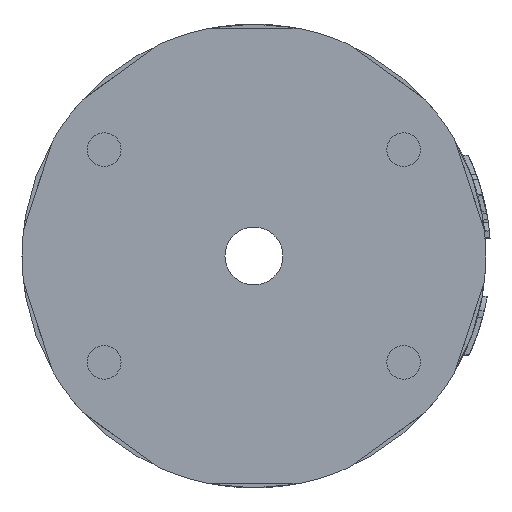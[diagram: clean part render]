
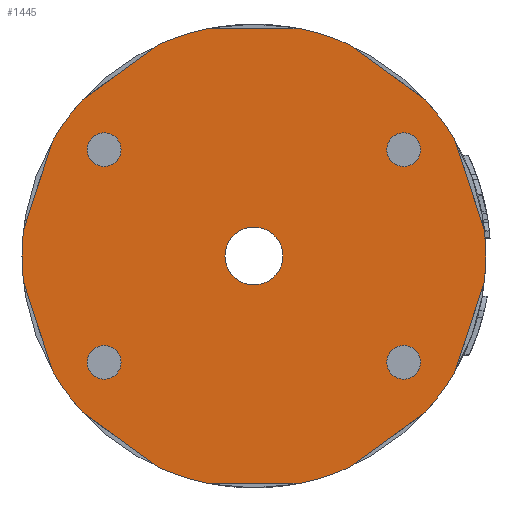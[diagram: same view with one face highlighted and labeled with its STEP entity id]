
A CAD part, front view. The second image highlights one B-rep face of the part: STEP entity #1445.
In plain terms, the highlighted planar face has unit normal (0, -1, 0).
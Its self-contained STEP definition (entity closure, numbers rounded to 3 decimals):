
#227=FACE_BOUND('',#2878,.T.);
#228=FACE_BOUND('',#2879,.T.);
#229=FACE_BOUND('',#2880,.T.);
#230=FACE_BOUND('',#2881,.T.);
#231=FACE_BOUND('',#2882,.T.);
#232=FACE_BOUND('',#2883,.T.);
#398=CIRCLE('',#8556,24.);
#399=CIRCLE('',#8557,24.);
#400=CIRCLE('',#8558,24.);
#401=CIRCLE('',#8559,24.);
#402=CIRCLE('',#8560,24.);
#403=CIRCLE('',#8561,24.);
#404=CIRCLE('',#8562,24.);
#405=CIRCLE('',#8563,24.);
#406=CIRCLE('',#8564,24.);
#407=CIRCLE('',#8565,24.);
#408=CIRCLE('',#8566,3.);
#409=CIRCLE('',#8567,3.);
#410=CIRCLE('',#8568,1.75);
#411=CIRCLE('',#8569,1.75);
#412=CIRCLE('',#8570,1.75);
#413=CIRCLE('',#8571,1.75);
#414=CIRCLE('',#8572,1.75);
#415=CIRCLE('',#8573,1.75);
#416=CIRCLE('',#8574,1.75);
#417=CIRCLE('',#8575,1.75);
#831=PLANE('',#8576);
#1046=LINE('',#32040,#1975);
#1047=LINE('',#32044,#1976);
#1048=LINE('',#32048,#1977);
#1049=LINE('',#32052,#1978);
#1050=LINE('',#32056,#1979);
#1051=LINE('',#32060,#1980);
#1052=LINE('',#32064,#1981);
#1053=LINE('',#32068,#1982);
#1054=LINE('',#32072,#1983);
#1055=LINE('',#32076,#1984);
#1445=ADVANCED_FACE('',(#227,#228,#229,#230,#231,#232),#831,.F.);
#1975=VECTOR('',#9775,1.);
#1976=VECTOR('',#9778,1.);
#1977=VECTOR('',#9781,1.);
#1978=VECTOR('',#9784,1.);
#1979=VECTOR('',#9787,1.);
#1980=VECTOR('',#9790,1.);
#1981=VECTOR('',#9793,1.);
#1982=VECTOR('',#9796,1.);
#1983=VECTOR('',#9799,1.);
#1984=VECTOR('',#9802,1.);
#2878=EDGE_LOOP('',(#4480,#4481,#4482,#4483,#4484,#4485,#4486,#4487,#4488,
#4489,#4490,#4491,#4492,#4493,#4494,#4495,#4496,#4497,#4498,#4499));
#2879=EDGE_LOOP('',(#4500,#4501));
#2880=EDGE_LOOP('',(#4502,#4503));
#2881=EDGE_LOOP('',(#4504,#4505));
#2882=EDGE_LOOP('',(#4506,#4507));
#2883=EDGE_LOOP('',(#4508,#4509));
#4480=ORIENTED_EDGE('',*,*,#7155,.T.);
#4481=ORIENTED_EDGE('',*,*,#7156,.F.);
#4482=ORIENTED_EDGE('',*,*,#7157,.T.);
#4483=ORIENTED_EDGE('',*,*,#7158,.F.);
#4484=ORIENTED_EDGE('',*,*,#7159,.T.);
#4485=ORIENTED_EDGE('',*,*,#7160,.F.);
#4486=ORIENTED_EDGE('',*,*,#7161,.T.);
#4487=ORIENTED_EDGE('',*,*,#7162,.F.);
#4488=ORIENTED_EDGE('',*,*,#7163,.T.);
#4489=ORIENTED_EDGE('',*,*,#7164,.F.);
#4490=ORIENTED_EDGE('',*,*,#7165,.T.);
#4491=ORIENTED_EDGE('',*,*,#7166,.F.);
#4492=ORIENTED_EDGE('',*,*,#7167,.T.);
#4493=ORIENTED_EDGE('',*,*,#7168,.F.);
#4494=ORIENTED_EDGE('',*,*,#7169,.T.);
#4495=ORIENTED_EDGE('',*,*,#7170,.F.);
#4496=ORIENTED_EDGE('',*,*,#7171,.T.);
#4497=ORIENTED_EDGE('',*,*,#7172,.F.);
#4498=ORIENTED_EDGE('',*,*,#7173,.T.);
#4499=ORIENTED_EDGE('',*,*,#7174,.F.);
#4500=ORIENTED_EDGE('',*,*,#7175,.F.);
#4501=ORIENTED_EDGE('',*,*,#7176,.F.);
#4502=ORIENTED_EDGE('',*,*,#7177,.F.);
#4503=ORIENTED_EDGE('',*,*,#7178,.F.);
#4504=ORIENTED_EDGE('',*,*,#7179,.T.);
#4505=ORIENTED_EDGE('',*,*,#7180,.T.);
#4506=ORIENTED_EDGE('',*,*,#7181,.F.);
#4507=ORIENTED_EDGE('',*,*,#7182,.F.);
#4508=ORIENTED_EDGE('',*,*,#7183,.T.);
#4509=ORIENTED_EDGE('',*,*,#7184,.T.);
#6105=VERTEX_POINT('',#32038);
#6106=VERTEX_POINT('',#32039);
#6107=VERTEX_POINT('',#32041);
#6108=VERTEX_POINT('',#32043);
#6109=VERTEX_POINT('',#32045);
#6110=VERTEX_POINT('',#32047);
#6111=VERTEX_POINT('',#32049);
#6112=VERTEX_POINT('',#32051);
#6113=VERTEX_POINT('',#32053);
#6114=VERTEX_POINT('',#32055);
#6115=VERTEX_POINT('',#32057);
#6116=VERTEX_POINT('',#32059);
#6117=VERTEX_POINT('',#32061);
#6118=VERTEX_POINT('',#32063);
#6119=VERTEX_POINT('',#32065);
#6120=VERTEX_POINT('',#32067);
#6121=VERTEX_POINT('',#32069);
#6122=VERTEX_POINT('',#32071);
#6123=VERTEX_POINT('',#32073);
#6124=VERTEX_POINT('',#32075);
#6125=VERTEX_POINT('',#32078);
#6126=VERTEX_POINT('',#32079);
#6127=VERTEX_POINT('',#32082);
#6128=VERTEX_POINT('',#32083);
#6129=VERTEX_POINT('',#32086);
#6130=VERTEX_POINT('',#32087);
#6131=VERTEX_POINT('',#32090);
#6132=VERTEX_POINT('',#32091);
#6133=VERTEX_POINT('',#32094);
#6134=VERTEX_POINT('',#32095);
#7155=EDGE_CURVE('',#6105,#6106,#398,.T.);
#7156=EDGE_CURVE('',#6107,#6106,#1046,.T.);
#7157=EDGE_CURVE('',#6107,#6108,#399,.T.);
#7158=EDGE_CURVE('',#6109,#6108,#1047,.T.);
#7159=EDGE_CURVE('',#6109,#6110,#400,.T.);
#7160=EDGE_CURVE('',#6111,#6110,#1048,.T.);
#7161=EDGE_CURVE('',#6111,#6112,#401,.T.);
#7162=EDGE_CURVE('',#6113,#6112,#1049,.T.);
#7163=EDGE_CURVE('',#6113,#6114,#402,.T.);
#7164=EDGE_CURVE('',#6115,#6114,#1050,.T.);
#7165=EDGE_CURVE('',#6115,#6116,#403,.T.);
#7166=EDGE_CURVE('',#6117,#6116,#1051,.T.);
#7167=EDGE_CURVE('',#6117,#6118,#404,.T.);
#7168=EDGE_CURVE('',#6119,#6118,#1052,.T.);
#7169=EDGE_CURVE('',#6119,#6120,#405,.T.);
#7170=EDGE_CURVE('',#6121,#6120,#1053,.T.);
#7171=EDGE_CURVE('',#6121,#6122,#406,.T.);
#7172=EDGE_CURVE('',#6123,#6122,#1054,.T.);
#7173=EDGE_CURVE('',#6123,#6124,#407,.T.);
#7174=EDGE_CURVE('',#6105,#6124,#1055,.T.);
#7175=EDGE_CURVE('',#6125,#6126,#408,.T.);
#7176=EDGE_CURVE('',#6126,#6125,#409,.T.);
#7177=EDGE_CURVE('',#6127,#6128,#410,.T.);
#7178=EDGE_CURVE('',#6128,#6127,#411,.T.);
#7179=EDGE_CURVE('',#6129,#6130,#412,.T.);
#7180=EDGE_CURVE('',#6130,#6129,#413,.T.);
#7181=EDGE_CURVE('',#6131,#6132,#414,.T.);
#7182=EDGE_CURVE('',#6132,#6131,#415,.T.);
#7183=EDGE_CURVE('',#6133,#6134,#416,.T.);
#7184=EDGE_CURVE('',#6134,#6133,#417,.T.);
#8556=AXIS2_PLACEMENT_3D('',#32037,#9773,#9774);
#8557=AXIS2_PLACEMENT_3D('',#32042,#9776,#9777);
#8558=AXIS2_PLACEMENT_3D('',#32046,#9779,#9780);
#8559=AXIS2_PLACEMENT_3D('',#32050,#9782,#9783);
#8560=AXIS2_PLACEMENT_3D('',#32054,#9785,#9786);
#8561=AXIS2_PLACEMENT_3D('',#32058,#9788,#9789);
#8562=AXIS2_PLACEMENT_3D('',#32062,#9791,#9792);
#8563=AXIS2_PLACEMENT_3D('',#32066,#9794,#9795);
#8564=AXIS2_PLACEMENT_3D('',#32070,#9797,#9798);
#8565=AXIS2_PLACEMENT_3D('',#32074,#9800,#9801);
#8566=AXIS2_PLACEMENT_3D('',#32077,#9803,#9804);
#8567=AXIS2_PLACEMENT_3D('',#32080,#9805,#9806);
#8568=AXIS2_PLACEMENT_3D('',#32081,#9807,#9808);
#8569=AXIS2_PLACEMENT_3D('',#32084,#9809,#9810);
#8570=AXIS2_PLACEMENT_3D('',#32085,#9811,#9812);
#8571=AXIS2_PLACEMENT_3D('',#32088,#9813,#9814);
#8572=AXIS2_PLACEMENT_3D('',#32089,#9815,#9816);
#8573=AXIS2_PLACEMENT_3D('',#32092,#9817,#9818);
#8574=AXIS2_PLACEMENT_3D('',#32093,#9819,#9820);
#8575=AXIS2_PLACEMENT_3D('',#32096,#9821,#9822);
#8576=AXIS2_PLACEMENT_3D('',#32097,#9823,#9824);
#9773=DIRECTION('',(0.,-1.,0.));
#9774=DIRECTION('',(-0.74,0.,0.673));
#9775=DIRECTION('',(0.309,0.,0.951));
#9776=DIRECTION('',(0.,-1.,0.));
#9777=DIRECTION('',(-0.994,0.,0.109));
#9778=DIRECTION('',(-0.309,0.,0.951));
#9779=DIRECTION('',(0.,-1.,0.));
#9780=DIRECTION('',(-0.868,0.,-0.496));
#9781=DIRECTION('',(-0.809,0.,0.588));
#9782=DIRECTION('',(0.,-1.,0.));
#9783=DIRECTION('',(-0.411,0.,-0.912));
#9784=DIRECTION('',(-1.,0.,0.));
#9785=DIRECTION('',(0.,-1.,0.));
#9786=DIRECTION('',(0.203,0.,-0.979));
#9787=DIRECTION('',(-0.809,0.,-0.588));
#9788=DIRECTION('',(0.,-1.,0.));
#9789=DIRECTION('',(0.74,0.,-0.673));
#9790=DIRECTION('',(-0.309,0.,-0.951));
#9791=DIRECTION('',(0.,-1.,0.));
#9792=DIRECTION('',(0.994,0.,-0.109));
#9793=DIRECTION('',(0.309,0.,-0.951));
#9794=DIRECTION('',(0.,-1.,0.));
#9795=DIRECTION('',(0.868,0.,0.496));
#9796=DIRECTION('',(0.809,0.,-0.588));
#9797=DIRECTION('',(0.,-1.,0.));
#9798=DIRECTION('',(0.411,0.,0.912));
#9799=DIRECTION('',(1.,0.,0.));
#9800=DIRECTION('',(0.,-1.,0.));
#9801=DIRECTION('',(-0.203,0.,0.979));
#9802=DIRECTION('',(0.809,0.,0.588));
#9803=DIRECTION('',(0.,-1.,0.));
#9804=DIRECTION('',(-1.,0.,0.));
#9805=DIRECTION('',(0.,-1.,0.));
#9806=DIRECTION('',(1.,0.,0.));
#9807=DIRECTION('',(0.,-1.,0.));
#9808=DIRECTION('',(-1.,0.,0.));
#9809=DIRECTION('',(0.,-1.,0.));
#9810=DIRECTION('',(1.,0.,0.));
#9811=DIRECTION('',(0.,1.,0.));
#9812=DIRECTION('',(1.,0.,0.));
#9813=DIRECTION('',(0.,1.,0.));
#9814=DIRECTION('',(-1.,0.,0.));
#9815=DIRECTION('',(0.,-1.,0.));
#9816=DIRECTION('',(1.,0.,0.));
#9817=DIRECTION('',(0.,-1.,0.));
#9818=DIRECTION('',(-1.,0.,0.));
#9819=DIRECTION('',(0.,1.,0.));
#9820=DIRECTION('',(-1.,0.,0.));
#9821=DIRECTION('',(0.,1.,0.));
#9822=DIRECTION('',(1.,0.,0.));
#9823=DIRECTION('',(0.,1.,0.));
#9824=DIRECTION('',(-1.,0.,0.));
#32037=CARTESIAN_POINT('',(0.,0.,0.));
#32038=CARTESIAN_POINT('',(-17.756,0.,16.147));
#32039=CARTESIAN_POINT('',(-20.844,0.,11.897));
#32040=CARTESIAN_POINT('',(-23.856,0.,2.627));
#32041=CARTESIAN_POINT('',(-23.856,0.,2.627));
#32042=CARTESIAN_POINT('',(0.,0.,0.));
#32043=CARTESIAN_POINT('',(-23.856,0.,-2.627));
#32044=CARTESIAN_POINT('',(-20.844,0.,-11.897));
#32045=CARTESIAN_POINT('',(-20.844,0.,-11.897));
#32046=CARTESIAN_POINT('',(0.,0.,0.));
#32047=CARTESIAN_POINT('',(-17.756,0.,-16.147));
#32048=CARTESIAN_POINT('',(-9.87,0.,-21.876));
#32049=CARTESIAN_POINT('',(-9.87,0.,-21.876));
#32050=CARTESIAN_POINT('',(0.,0.,0.));
#32051=CARTESIAN_POINT('',(-4.873,0.,-23.5));
#32052=CARTESIAN_POINT('',(4.873,0.,-23.5));
#32053=CARTESIAN_POINT('',(4.873,0.,-23.5));
#32054=CARTESIAN_POINT('',(0.,0.,0.));
#32055=CARTESIAN_POINT('',(9.87,0.,-21.876));
#32056=CARTESIAN_POINT('',(17.756,0.,-16.147));
#32057=CARTESIAN_POINT('',(17.756,0.,-16.147));
#32058=CARTESIAN_POINT('',(0.,0.,0.));
#32059=CARTESIAN_POINT('',(20.844,0.,-11.897));
#32060=CARTESIAN_POINT('',(23.856,0.,-2.627));
#32061=CARTESIAN_POINT('',(23.856,0.,-2.627));
#32062=CARTESIAN_POINT('',(0.,0.,0.));
#32063=CARTESIAN_POINT('',(23.856,0.,2.627));
#32064=CARTESIAN_POINT('',(20.844,0.,11.897));
#32065=CARTESIAN_POINT('',(20.844,0.,11.897));
#32066=CARTESIAN_POINT('',(0.,0.,0.));
#32067=CARTESIAN_POINT('',(17.756,0.,16.147));
#32068=CARTESIAN_POINT('',(9.87,0.,21.876));
#32069=CARTESIAN_POINT('',(9.87,0.,21.876));
#32070=CARTESIAN_POINT('',(0.,0.,0.));
#32071=CARTESIAN_POINT('',(4.873,0.,23.5));
#32072=CARTESIAN_POINT('',(-4.873,0.,23.5));
#32073=CARTESIAN_POINT('',(-4.873,0.,23.5));
#32074=CARTESIAN_POINT('',(0.,0.,0.));
#32075=CARTESIAN_POINT('',(-9.87,0.,21.876));
#32076=CARTESIAN_POINT('',(-17.756,0.,16.147));
#32077=CARTESIAN_POINT('',(0.,0.,0.));
#32078=CARTESIAN_POINT('',(-3.,0.,0.));
#32079=CARTESIAN_POINT('',(3.,0.,0.));
#32080=CARTESIAN_POINT('',(0.,0.,0.));
#32081=CARTESIAN_POINT('',(15.5,0.,11.));
#32082=CARTESIAN_POINT('',(13.75,0.,11.));
#32083=CARTESIAN_POINT('',(17.25,0.,11.));
#32084=CARTESIAN_POINT('',(15.5,0.,11.));
#32085=CARTESIAN_POINT('',(-15.5,0.,11.));
#32086=CARTESIAN_POINT('',(-13.75,0.,11.));
#32087=CARTESIAN_POINT('',(-17.25,0.,11.));
#32088=CARTESIAN_POINT('',(-15.5,0.,11.));
#32089=CARTESIAN_POINT('',(-15.5,0.,-11.));
#32090=CARTESIAN_POINT('',(-13.75,0.,-11.));
#32091=CARTESIAN_POINT('',(-17.25,0.,-11.));
#32092=CARTESIAN_POINT('',(-15.5,0.,-11.));
#32093=CARTESIAN_POINT('',(15.5,0.,-11.));
#32094=CARTESIAN_POINT('',(13.75,0.,-11.));
#32095=CARTESIAN_POINT('',(17.25,0.,-11.));
#32096=CARTESIAN_POINT('',(15.5,0.,-11.));
#32097=CARTESIAN_POINT('',(0.,0.,0.));
